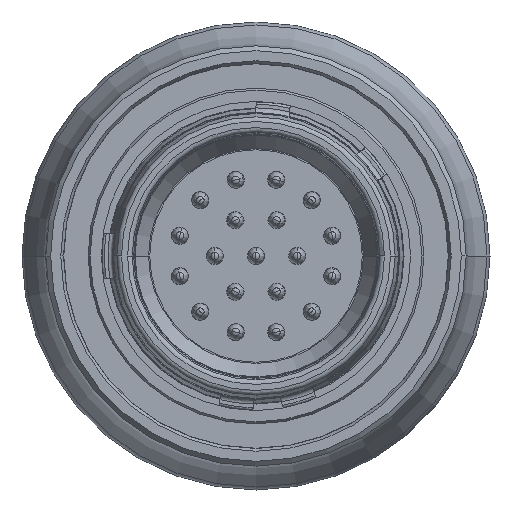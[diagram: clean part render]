
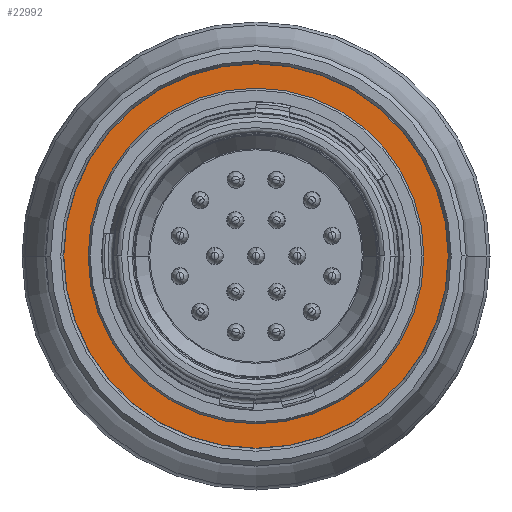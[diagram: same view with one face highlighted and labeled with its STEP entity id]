
A CAD part, left-side view. The second image highlights one B-rep face of the part: STEP entity #22992.
In plain terms, the highlighted planar face has unit normal (-1, 0, 0).
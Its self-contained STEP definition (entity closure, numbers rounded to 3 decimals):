
#4700=CARTESIAN_POINT('',(12.01,0.,0.));
#4701=DIRECTION('',(1.,0.,0.));
#4702=DIRECTION('',(0.,1.,0.));
#4703=AXIS2_PLACEMENT_3D('',#4700,#4701,#4702);
#4705=CARTESIAN_POINT('',(12.01,0.,0.));
#4706=DIRECTION('',(1.,0.,0.));
#4707=DIRECTION('',(0.,-1.,0.));
#4708=AXIS2_PLACEMENT_3D('',#4705,#4706,#4707);
#4710=CARTESIAN_POINT('',(12.01,0.,0.));
#4711=DIRECTION('',(-1.,0.,0.));
#4712=DIRECTION('',(0.,1.,0.));
#4713=AXIS2_PLACEMENT_3D('',#4710,#4711,#4712);
#4715=CARTESIAN_POINT('',(12.01,0.,0.));
#4716=DIRECTION('',(-1.,0.,0.));
#4717=DIRECTION('',(0.,-1.,0.));
#4718=AXIS2_PLACEMENT_3D('',#4715,#4716,#4717);
#13595=CARTESIAN_POINT('',(12.01,-7.03,0.));
#13596=VERTEX_POINT('',#13595);
#13597=CARTESIAN_POINT('',(12.01,7.03,0.));
#13598=VERTEX_POINT('',#13597);
#13601=CARTESIAN_POINT('',(12.01,8.05,0.));
#13602=CARTESIAN_POINT('',(12.01,-8.05,0.));
#13603=VERTEX_POINT('',#13601);
#13604=VERTEX_POINT('',#13602);
#22977=CARTESIAN_POINT('',(12.01,0.,0.));
#22978=DIRECTION('',(-1.,0.,0.));
#22979=DIRECTION('',(0.,1.,0.));
#22980=AXIS2_PLACEMENT_3D('',#22977,#22978,#22979);
#22981=PLANE('',#22980);
#22982=ORIENTED_EDGE('',*,*,#22964,.T.);
#22983=ORIENTED_EDGE('',*,*,#22942,.T.);
#22984=EDGE_LOOP('',(#22982,#22983));
#22985=FACE_OUTER_BOUND('',#22984,.F.);
#22987=ORIENTED_EDGE('',*,*,#22986,.T.);
#22989=ORIENTED_EDGE('',*,*,#22988,.T.);
#22990=EDGE_LOOP('',(#22987,#22989));
#22991=FACE_BOUND('',#22990,.F.);
#4704=CIRCLE('',#4703,8.05);
#4709=CIRCLE('',#4708,8.05);
#4714=CIRCLE('',#4713,7.03);
#4719=CIRCLE('',#4718,7.03);
#22942=EDGE_CURVE('',#13604,#13603,#4709,.T.);
#22964=EDGE_CURVE('',#13603,#13604,#4704,.T.);
#22986=EDGE_CURVE('',#13598,#13596,#4714,.T.);
#22988=EDGE_CURVE('',#13596,#13598,#4719,.T.);
#22992=ADVANCED_FACE('',(#22985,#22991),#22981,.T.);
